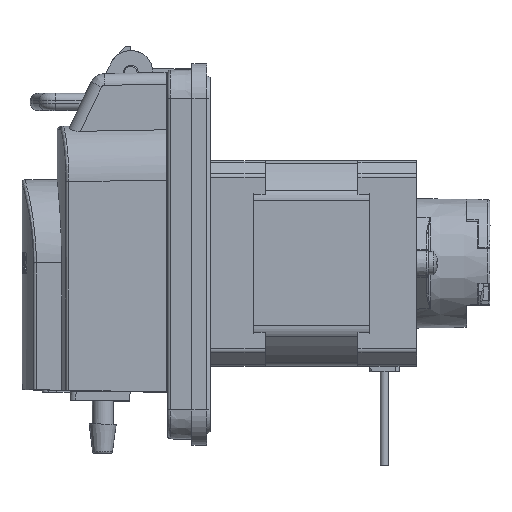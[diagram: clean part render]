
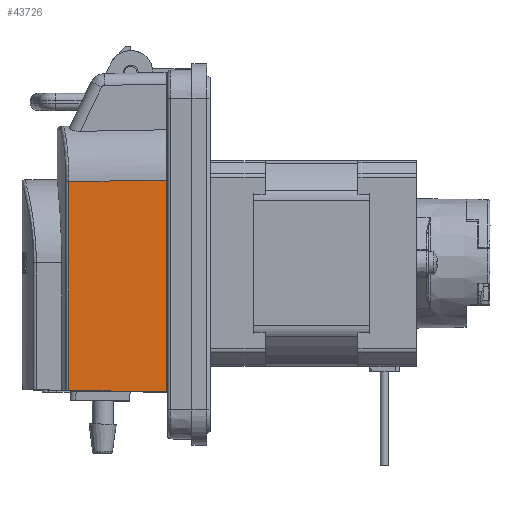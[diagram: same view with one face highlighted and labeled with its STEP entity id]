
A CAD part, top view. The second image highlights one B-rep face of the part: STEP entity #43726.
In plain terms, the highlighted planar face has unit normal (-0.018, 0, 1) as drawn and (0.017, 1, 0) by its records, which use the part's own axes.
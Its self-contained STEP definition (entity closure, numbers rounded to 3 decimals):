
#162 = CARTESIAN_POINT ( 'NONE',  ( 3.1, 20.8, -22. ) ) ;
#3070 = VECTOR ( 'NONE', #39093, 1000. ) ;
#3745 = LINE ( 'NONE', #50681, #14955 ) ;
#4698 = FACE_OUTER_BOUND ( 'NONE', #24956, .T. ) ;
#6475 = EDGE_CURVE ( 'NONE', #36182, #16881, #53341, .T. ) ;
#7925 = CARTESIAN_POINT ( 'NONE',  ( 19.723, 20.51, 13.829 ) ) ;
#8512 = LINE ( 'NONE', #36054, #24685 ) ;
#9419 = DIRECTION ( 'NONE',  ( 1., -0.017, -0.017 ) ) ;
#11346 = CARTESIAN_POINT ( 'NONE',  ( 3.1, 20.8, 14.119 ) ) ;
#14084 = ORIENTED_EDGE ( 'NONE', *, *, #6475, .T. ) ;
#14955 = VECTOR ( 'NONE', #22226, 1000. ) ;
#16881 = VERTEX_POINT ( 'NONE', #56271 ) ;
#18658 = EDGE_CURVE ( 'NONE', #16881, #39013, #3745, .T. ) ;
#22226 = DIRECTION ( 'NONE',  ( -1., 0.017, -0.017 ) ) ;
#22593 = DIRECTION ( 'NONE',  ( 0., 0., 1. ) ) ;
#24685 = VECTOR ( 'NONE', #9419, 1000. ) ;
#24956 = EDGE_LOOP ( 'NONE', ( #29211, #14084, #26141, #52550 ) ) ;
#26141 = ORIENTED_EDGE ( 'NONE', *, *, #18658, .T. ) ;
#27394 = LINE ( 'NONE', #162, #35257 ) ;
#28272 = DIRECTION ( 'NONE',  ( 0., 0., -1. ) ) ;
#29211 = ORIENTED_EDGE ( 'NONE', *, *, #45305, .T. ) ;
#29898 = EDGE_CURVE ( 'NONE', #39013, #59145, #27394, .T. ) ;
#30287 = CARTESIAN_POINT ( 'NONE',  ( 19.723, 20.51, -21.702 ) ) ;
#35257 = VECTOR ( 'NONE', #22593, 1000. ) ;
#36054 = CARTESIAN_POINT ( 'NONE',  ( 3.73, 20.789, 14.108 ) ) ;
#36182 = VERTEX_POINT ( 'NONE', #7925 ) ;
#37838 = CARTESIAN_POINT ( 'NONE',  ( 3.1, 20.8, -22. ) ) ;
#39013 = VERTEX_POINT ( 'NONE', #37838 ) ;
#39093 = DIRECTION ( 'NONE',  ( 0., 0., -1. ) ) ;
#43726 = ADVANCED_FACE ( 'NONE', ( #4698 ), #55882, .T. ) ;
#45305 = EDGE_CURVE ( 'NONE', #59145, #36182, #8512, .T. ) ;
#50681 = CARTESIAN_POINT ( 'NONE',  ( 3.155, 20.799, -21.999 ) ) ;
#51345 = DIRECTION ( 'NONE',  ( 0.017, 1., 0. ) ) ;
#52550 = ORIENTED_EDGE ( 'NONE', *, *, #29898, .T. ) ;
#53341 = LINE ( 'NONE', #30287, #3070 ) ;
#53735 = AXIS2_PLACEMENT_3D ( 'NONE', #59220, #51345, #28272 ) ;
#55882 = PLANE ( 'NONE',  #53735 ) ;
#56271 = CARTESIAN_POINT ( 'NONE',  ( 19.723, 20.51, -21.71 ) ) ;
#59145 = VERTEX_POINT ( 'NONE', #11346 ) ;
#59220 = CARTESIAN_POINT ( 'NONE',  ( 3.1, 20.8, -22. ) ) ;
